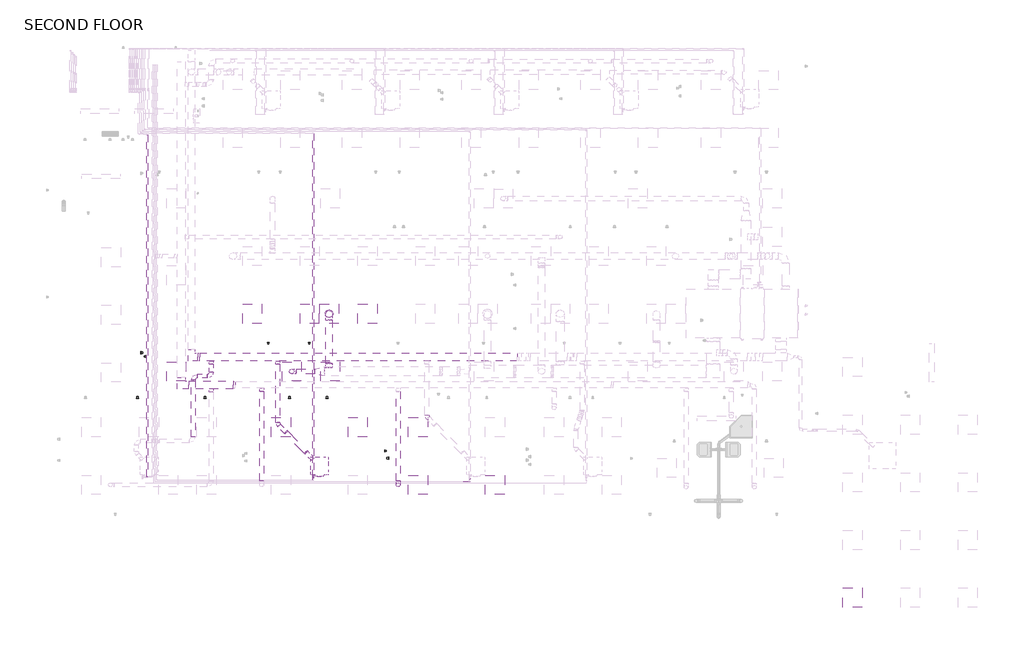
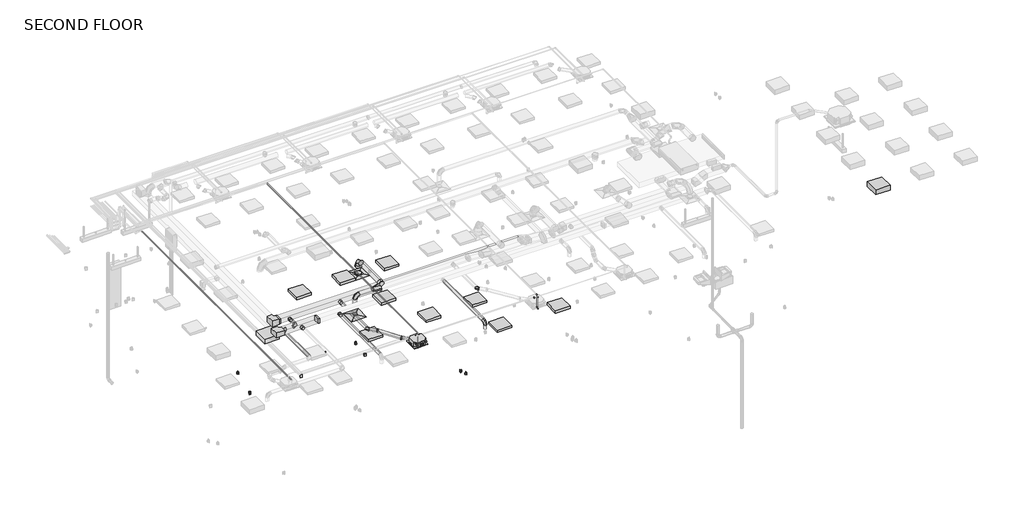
# One storey, part 2 of 12: 20 duct fittings, 15 duct segments, 11 light fixtures, 8 pipe segments, 7 pipe fittings, 6 proxies, 4 switching devices, 2 air terminals, 1 electric appliance.
"""IFC4 building model written with IfcOpenShell, lengths in millimetres."""

from ifc_helpers import new_model, si_unit, point, frame, frame_2d, origin, place, context, project, spatial, polyline, circle_curve, trimmed, segment, composite_curve, outline, extrude, transform, mapped, element, save
from components import air_terminal_a1f6e78c, air_terminal_52af7c74, mechanical_equipment_2d84379e, duplex_receptacle_countertop_10251bba, oval_to_round_transition_length_standard_34fdf921, rectangular_elbow_mitered_transition_standard_34e7224c, rectangular_elbow_mitered_transition_standard_2c7a3de9, rectangular_transition_angle_45_degree_c4f24900, rectangular_transition_angle_45_degree_fab70002, round_elbow_1_d_311c5134, round_elbow_1_d_a253342a, round_elbow_1_d_b37ad80b, round_elbow_1_d_c80420c1, round_elbow_1_d_e3dc691b, round_takeoff_standard_9c416d91, round_takeoff_standard_7fe2b2d5, round_transition_angle_45_degree_2c0294df, telephone_outlet_data_plain_18c24199, troffer_corner_insert_2x2_3_lamp_emergency_29e3a813, troffer_corner_insert_2x2_3lamp_e67c7f8f, elbow_generic_standard_c06ac706, elbow_generic_standard_a088f956

model = new_model("IFC4")

# Units and contexts
model_context = context("Model", 3, world=origin())
ifc_project = project(units=[si_unit("LENGTHUNIT", "METRE", prefix="MILLI")], contexts=[model_context])

# Site, building, storey
site = spatial("IfcSite", under=ifc_project)
building = spatial("IfcBuilding", under=site)
storey = spatial("IfcBuildingStorey", under=building, Name="SECOND FLOOR", Elevation=34544.0)

# Air terminals
placement = place(None, origin())
air_terminal_shape = air_terminal_a1f6e78c(model_context)
element("IfcAirTerminal", 1, ObjectType="Supply Diffuser - Rectangular Face Round Neck - Hosted : 24\"x24\" Face 10\" Neck - Hosted", at=placement, inside=storey, context=model_context, shape_type="MappedRepresentation", body=[
    mapped(air_terminal_shape, transform((-1660.3642107, -751.4804995, 37287.2), x_axis=(-1.0, 0.0, 0.0), y_axis=(0.0, 1.0, 0.0), z_axis=(0.0, 0.0, -1.0))),
])
air_terminal_2_shape = air_terminal_52af7c74(model_context)
element("IfcAirTerminal", 2, ObjectType="Supply Diffuser - Rectangular Face Round Neck - Hosted : 24\"x24\" Face 6\" Neck - Hosted", at=placement, inside=storey, context=model_context, shape_type="MappedRepresentation", body=[
    mapped(air_terminal_2_shape, transform((-2847.0204607, -2580.2804995, 36982.4), x_axis=(-1.0, 0.0, 0.0), y_axis=(0.0, 1.0, 0.0), z_axis=(0.0, 0.0, -1.0))),
])

# Proxies
mechanical_equipment_shape = mechanical_equipment_2d84379e(model_context)
element("IfcBuildingElementProxy", 3, Name="PLFY-P-NCMU-E_4-way_24x24 : PLFY-P12NCMU-E", ObjectType="PLFY-P-NCMU-E_4-way_24x24 : PLFY-P12NCMU-E", at=placement, inside=storey, context=model_context, shape_type="MappedRepresentation", body=[
    mapped(mechanical_equipment_shape, transform((-1964.5292107, -5508.0657082, 37287.2), x_axis=(-1.0, 0.0, 0.0), y_axis=(0.0, 1.0, 0.0), z_axis=(0.0, 0.0, -1.0))),
])
duplex_receptacle_countertop_shape = duplex_receptacle_countertop_10251bba(model_context)
element("IfcBuildingElementProxy", 4, Name="Duplex Receptacle : Countertop", ObjectType="Duplex Receptacle : Countertop", at=placement, inside=storey, context=model_context, shape_type="MappedRepresentation", body=[
    mapped(duplex_receptacle_countertop_shape, transform((-7737.5045379, -3437.5304995, 35763.2), x_axis=(1.0, 0.0, 0.0), y_axis=(0.0, 0.0, 1.0), z_axis=(0.0, -1.0, 0.0))),
])
element("IfcBuildingElementProxy", 5, Name="Duplex Receptacle : Standard", ObjectType="Duplex Receptacle : Standard", at=placement, inside=storey, context=model_context, shape_type="MappedRepresentation", body=[
    mapped(duplex_receptacle_countertop_shape, transform((-3586.9084231, -1665.8804995, 35001.2), x_axis=(-1.0, 0.0, 0.0), y_axis=(0.0, 0.0, 1.0), z_axis=(0.0, 1.0, 0.0))),
])
element("IfcBuildingElementProxy", 6, Name="Duplex Receptacle : Standard", ObjectType="Duplex Receptacle : Standard", at=placement, inside=storey, context=model_context, shape_type="MappedRepresentation", body=[
    mapped(duplex_receptacle_countertop_shape, transform((-1729.6516875, -3437.5304995, 35001.2), x_axis=(1.0, 0.0, 0.0), y_axis=(0.0, 0.0, 1.0), z_axis=(0.0, -1.0, 0.0))),
])
element("IfcBuildingElementProxy", 7, Name="Duplex Receptacle : Standard", ObjectType="Duplex Receptacle : Standard", at=placement, inside=storey, context=model_context, shape_type="MappedRepresentation", body=[
    mapped(duplex_receptacle_countertop_shape, transform((101.6170393, -5102.6743878, 35001.2), x_axis=(0.0, -1.0, 0.0), y_axis=(0.0, 0.0, 1.0), z_axis=(-1.0, 0.0, 0.0))),
])
element("IfcBuildingElementProxy", 8, Name="Duplex Receptacle : Standard", ObjectType="Duplex Receptacle : Standard", at=placement, inside=storey, context=model_context, shape_type="MappedRepresentation", body=[
    mapped(duplex_receptacle_countertop_shape, transform((225.4420393, -5337.3044193, 35001.2), x_axis=(0.0, 1.0, 0.0), y_axis=(0.0, 0.0, 1.0), z_axis=(1.0, 0.0, 0.0))),
])

# Duct fittings
oval_to_round_transition_length_standard_shape = oval_to_round_transition_length_standard_34fdf921(model_context)
element("IfcDuctFitting", 9, ObjectType="Oval to Round Transition - Length : Standard", at=placement, inside=storey, context=model_context, shape_type="MappedRepresentation", body=[
    mapped(oval_to_round_transition_length_standard_shape, transform((-1817.5229315, -2580.2804995, 37872.9293609), x_axis=(-1.0, 0.0, 0.0), y_axis=(0.0, -1.0, 0.0), z_axis=(0.0, 0.0, 1.0))),
])
rectangular_elbow_mitered_transition_standard_shape = rectangular_elbow_mitered_transition_standard_34e7224c(model_context)
element("IfcDuctFitting", 10, ObjectType="Rectangular Elbow - Mitered - Transition : Standard", at=placement, inside=storey, context=model_context, shape_type="MappedRepresentation", body=[
    mapped(rectangular_elbow_mitered_transition_standard_shape, transform((-6029.8204015, -2123.0804995, 37541.2), x_axis=(0.0, -1.0, 0.0), y_axis=(1.0, 0.0, 0.0), z_axis=(0.0, 0.0, 1.0))),
])
rectangular_elbow_mitered_transition_standard_2_shape = rectangular_elbow_mitered_transition_standard_2c7a3de9(model_context)
element("IfcDuctFitting", 11, ObjectType="Rectangular Elbow - Mitered - Transition : Standard", at=placement, inside=storey, context=model_context, shape_type="MappedRepresentation", body=[
    mapped(rectangular_elbow_mitered_transition_standard_2_shape, transform((-6347.3126806, -3010.2706668, 37693.6), x_axis=(0.0, -1.0, 0.0), y_axis=(1.0, 0.0, 0.0), z_axis=(0.0, 0.0, 1.0))),
])
rectangular_transition_angle_45_degree_shape = rectangular_transition_angle_45_degree_c4f24900(model_context)
element("IfcDuctFitting", 12, ObjectType="Rectangular Transition - Angle : 45 Degree", at=placement, inside=storey, context=model_context, shape_type="MappedRepresentation", body=[
    mapped(rectangular_transition_angle_45_degree_shape, transform((-5826.6204015, -2123.0804995, 37541.2), x_axis=(1.0, 0.0, 0.0), y_axis=(0.0, 1.0, 0.0), z_axis=(0.0, 0.0, 1.0))),
])
rectangular_transition_angle_45_degree_2_shape = rectangular_transition_angle_45_degree_fab70002(model_context)
element("IfcDuctFitting", 13, ObjectType="Rectangular Transition - Angle : 45 Degree", at=placement, inside=storey, context=model_context, shape_type="MappedRepresentation", body=[
    mapped(rectangular_transition_angle_45_degree_2_shape, transform((-4638.1666561, -3010.2706668, 37693.6), x_axis=(-1.0, 0.0, 0.0), y_axis=(0.0, -1.0, 0.0), z_axis=(0.0, 0.0, 1.0))),
])
round_elbow_1_d_shape = round_elbow_1_d_311c5134(model_context)
element("IfcDuctFitting", 14, ObjectType="Round Elbow : 1 D", at=placement, inside=storey, context=model_context, shape_type="MappedRepresentation", body=[
    mapped(round_elbow_1_d_shape, transform((-3027.5488286, -4513.6671316, 37541.2), x_axis=(0.7071067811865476, -0.7071067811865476, 0.0), y_axis=(0.0, 0.0, -1.0000000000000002), z_axis=(0.7071067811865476, 0.7071067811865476, 0.0))),
])
element("IfcDuctFitting", 15, ObjectType="Round Elbow : 1 D", at=placement, inside=storey, context=model_context, shape_type="MappedRepresentation", body=[
    mapped(round_elbow_1_d_shape, transform((-2391.6566692, -5149.559291, 37381.2593852), x_axis=(0.6961818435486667, -0.6961818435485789, -0.17510477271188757), y_axis=(0.12381777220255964, -0.12381777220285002, 0.9845498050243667), z_axis=(-0.7071067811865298, -0.7071067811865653, 0.0))),
])
round_elbow_1_d_2_shape = round_elbow_1_d_a253342a(model_context)
element("IfcDuctFitting", 16, ObjectType="Round Elbow : 1 D", at=placement, inside=storey, context=model_context, shape_type="MappedRepresentation", body=[
    mapped(round_elbow_1_d_2_shape, transform((-1660.3642107, -751.4804995, 37899.3625579), x_axis=(0.0, 0.0, 1.0), y_axis=(0.0, -1.0, 0.0), z_axis=(1.0, 0.0, 0.0))),
])
round_elbow_1_d_3_shape = round_elbow_1_d_b37ad80b(model_context)
element("IfcDuctFitting", 17, ObjectType="Round Elbow : 1 D", at=placement, inside=storey, context=model_context, shape_type="MappedRepresentation", body=[
    mapped(round_elbow_1_d_3_shape, transform((-2847.0204607, -2580.2804995, 37872.9293609), x_axis=(0.0, 0.0, 1.0), y_axis=(1.0, 0.0, 0.0), z_axis=(0.0, 1.0, 0.0))),
])
round_elbow_1_d_4_shape = round_elbow_1_d_c80420c1(model_context)
element("IfcDuctFitting", 18, ObjectType="Round Elbow : 1 D", at=placement, inside=storey, context=model_context, shape_type="MappedRepresentation", body=[
    mapped(round_elbow_1_d_4_shape, transform((530.2420393, -6180.7304995, 37693.6), x_axis=(0.0, 0.0, 1.0), y_axis=(0.0, 1.0, 0.0), z_axis=(-1.0, 0.0, 0.0))),
])
element("IfcDuctFitting", 19, ObjectType="Round Elbow : 1 D", at=placement, inside=storey, context=model_context, shape_type="MappedRepresentation", body=[
    mapped(round_elbow_1_d_4_shape, transform((-5970.2349734, -2733.8247368, 37515.8), x_axis=(-1.0, 0.0, 0.0), y_axis=(0.0, -1.0, 0.0), z_axis=(0.0, 0.0, 1.0))),
])
element("IfcDuctFitting", 20, ObjectType="Round Elbow : 1 D", at=placement, inside=storey, context=model_context, shape_type="MappedRepresentation", body=[
    mapped(round_elbow_1_d_4_shape, transform((-5393.5292107, -2733.8247368, 37515.8), x_axis=(1.0, 0.0, 0.0), y_axis=(0.0, 1.0, 0.0), z_axis=(0.0, 0.0, 1.0))),
])
round_elbow_1_d_5_shape = round_elbow_1_d_e3dc691b(model_context)
element("IfcDuctFitting", 21, ObjectType="Round Elbow : 1 D", at=placement, inside=storey, context=model_context, shape_type="MappedRepresentation", body=[
    mapped(round_elbow_1_d_5_shape, transform((-3284.9773478, -4256.2386124, 37541.2), x_axis=(0.0, -1.0, 0.0), y_axis=(1.0, 0.0, 0.0), z_axis=(0.0, 0.0, 1.0))),
])
element("IfcDuctFitting", 22, ObjectType="Round Elbow : 1 D", at=placement, inside=storey, context=model_context, shape_type="MappedRepresentation", body=[
    mapped(round_elbow_1_d_5_shape, transform((1442.1559931, -4022.7519533, 37541.2), x_axis=(0.0, -1.0, 0.0), y_axis=(1.0, 0.0, 0.0), z_axis=(0.0, 0.0, 1.0))),
])
round_takeoff_standard_shape = round_takeoff_standard_9c416d91(model_context)
element("IfcDuctFitting", 23, ObjectType="Round Takeoff : Standard", at=placement, inside=storey, context=model_context, shape_type="MappedRepresentation", body=[
    mapped(round_takeoff_standard_shape, transform((-1660.3642107, -2431.3792961, 37899.3625579), x_axis=(0.0, 1.0, 0.0), y_axis=(1.0, 0.0, 0.0), z_axis=(0.0, 0.0, -1.0))),
])
round_takeoff_standard_2_shape = round_takeoff_standard_7fe2b2d5(model_context)
element("IfcDuctFitting", 24, ObjectType="Round Takeoff : Standard", at=placement, inside=storey, context=model_context, shape_type="MappedRepresentation", body=[
    mapped(round_takeoff_standard_2_shape, transform((-5393.5292107, -3137.2706668, 37693.6), x_axis=(0.0, -1.0, 0.0), y_axis=(-1.0, 0.0, 0.0), z_axis=(0.0, 0.0, -1.0))),
])
element("IfcDuctFitting", 25, ObjectType="Round Takeoff : Standard", at=placement, inside=storey, context=model_context, shape_type="MappedRepresentation", body=[
    mapped(round_takeoff_standard_2_shape, transform((-3798.8854607, -3111.8706668, 37693.6), x_axis=(0.0, -1.0, 0.0), y_axis=(-1.0, 0.0, 0.0), z_axis=(0.0, 0.0, -1.0))),
])
element("IfcDuctFitting", 26, ObjectType="Round Takeoff : Standard", at=placement, inside=storey, context=model_context, shape_type="MappedRepresentation", body=[
    mapped(round_takeoff_standard_2_shape, transform((-3284.9773478, -2250.0804995, 37541.2), x_axis=(0.0, -1.0, 0.0), y_axis=(-1.0, 0.0, 0.0), z_axis=(0.0, 0.0, -1.0))),
])
element("IfcDuctFitting", 27, ObjectType="Round Takeoff : Standard", at=placement, inside=storey, context=model_context, shape_type="MappedRepresentation", body=[
    mapped(round_takeoff_standard_2_shape, transform((-5393.5292107, -2250.0804995, 37515.8), x_axis=(0.0, -1.0, 0.0), y_axis=(-1.0, 0.0, 0.0), z_axis=(0.0, 0.0, -1.0))),
])
round_transition_angle_45_degree_shape = round_transition_angle_45_degree_2c0294df(model_context)
element("IfcDuctFitting", 28, ObjectType="Round Transition - Angle : 45 Degree", at=placement, inside=storey, context=model_context, shape_type="MappedRepresentation", body=[
    mapped(round_transition_angle_45_degree_shape, transform((-1660.3642107, -751.4804995, 37634.8415334), x_axis=(0.0, 0.0, 1.0), y_axis=(1.0, 0.0, 0.0), z_axis=(0.0, 1.0, 0.0))),
])

# Duct segments
element("IfcDuctSegment", 29, ObjectType="Mitered Elbows / Taps", at=placement, inside=storey, context=model_context, shape_type="SweptSolid", body=[
    extrude(outline(polyline([(-6118.7126806, -3137.2706668), (-6118.7126806, -2883.2706668), (-4699.4876806, -2883.2706668), (-4699.4876806, -3137.2706668), (-6118.7126806, -3137.2706668)])), frame((0.0, 0.0, 37592.0), z_axis=(0.0, 0.0, 1.0), x_axis=(1.0, 0.0, 0.0)), (0.0, 0.0, 1.0), 203.2),
])
element("IfcDuctSegment", 30, ObjectType="Radius Elbows / Taps", at=placement, inside=storey, context=model_context, shape_type="SweptSolid", body=[
    extrude(outline(polyline([(-5765.299377, -2250.0804995), (-5765.299377, -1996.0804995), (4310.5486467, -1996.0804995), (4310.5486467, -2250.0804995), (-5765.299377, -2250.0804995)])), frame((0.0, 0.0, 37439.6), z_axis=(0.0, 0.0, 1.0), x_axis=(1.0, 0.0, 0.0)), (0.0, 0.0, 1.0), 203.2),
])
element("IfcDuctSegment", 31, ObjectType="Taps / Short Radius", at=placement, inside=storey, context=model_context, shape_type="SweptSolid", body=[
    extrude(outline(composite_curve([segment(trimmed(circle_curve(frame_2d((37899.3625579, -1660.3642107)), 101.6), [point((37899.3625579, -1761.9642107))], [point((37797.7625579, -1660.3642107))], False, "CARTESIAN"), True, "CONTINUOUS"), segment(trimmed(circle_curve(frame_2d((37899.3625579, -1660.3642107)), 101.6), [point((37797.7625579, -1660.3642107))], [point((37899.3625579, -1558.7642107))], False, "CARTESIAN"), True, "CONTINUOUS"), segment(trimmed(circle_curve(frame_2d((37899.3625579, -1660.3642107)), 101.6), [point((37899.3625579, -1558.7642107))], [point((38000.9625579, -1660.3642107))], False, "CARTESIAN"), True, "CONTINUOUS"), segment(trimmed(circle_curve(frame_2d((37899.3625579, -1660.3642107)), 101.6), [point((38000.9625579, -1660.3642107))], [point((37899.3625579, -1761.9642107))], False, "CARTESIAN"), True, "CONTINUOUS")], self_intersect=False)), frame((0.0, -2329.7792961, 0.0), z_axis=(0.0, 1.0, 0.0), x_axis=(0.0, 0.0, 1.0)), (0.0, 0.0, 1.0), 1375.0987967),
])
element("IfcDuctSegment", 32, ObjectType="Taps / Short Radius", at=placement, inside=storey, context=model_context, shape_type="SweptSolid", body=[
    extrude(outline(composite_curve([segment(trimmed(circle_curve(frame_2d((-2580.2804995, 37872.9293609)), 76.2), [point((-2656.4804995, 37872.9293609))], [point((-2580.2804995, 37949.1293609))], False, "CARTESIAN"), True, "CONTINUOUS"), segment(trimmed(circle_curve(frame_2d((-2580.2804995, 37872.9293609)), 76.2), [point((-2580.2804995, 37949.1293609))], [point((-2504.0804995, 37872.9293609))], False, "CARTESIAN"), True, "CONTINUOUS"), segment(trimmed(circle_curve(frame_2d((-2580.2804995, 37872.9293609)), 76.2), [point((-2504.0804995, 37872.9293609))], [point((-2580.2804995, 37796.7293609))], False, "CARTESIAN"), True, "CONTINUOUS"), segment(trimmed(circle_curve(frame_2d((-2580.2804995, 37872.9293609)), 76.2), [point((-2580.2804995, 37796.7293609))], [point((-2656.4804995, 37872.9293609))], False, "CARTESIAN"), True, "CONTINUOUS")], self_intersect=False)), frame((-2694.6204607, 0.0, 0.0), z_axis=(1.0, 0.0, 0.0), x_axis=(0.0, 1.0, 0.0)), (0.0, 0.0, 1.0), 572.2975292),
])
element("IfcDuctSegment", 33, ObjectType="Taps / Short Radius", at=placement, inside=storey, context=model_context, shape_type="SweptSolid", body=[
    extrude(outline(composite_curve([segment(trimmed(circle_curve(frame_2d((-2847.0204607, -2580.2804995)), 76.2), [point((-2847.0204607, -2656.4804995))], [point((-2923.2204607, -2580.2804995))], False, "CARTESIAN"), True, "CONTINUOUS"), segment(trimmed(circle_curve(frame_2d((-2847.0204607, -2580.2804995)), 76.2), [point((-2923.2204607, -2580.2804995))], [point((-2847.0204607, -2504.0804995))], False, "CARTESIAN"), True, "CONTINUOUS"), segment(trimmed(circle_curve(frame_2d((-2847.0204607, -2580.2804995)), 76.2), [point((-2847.0204607, -2504.0804995))], [point((-2770.8204607, -2580.2804995))], False, "CARTESIAN"), True, "CONTINUOUS"), segment(trimmed(circle_curve(frame_2d((-2847.0204607, -2580.2804995)), 76.2), [point((-2770.8204607, -2580.2804995))], [point((-2847.0204607, -2656.4804995))], False, "CARTESIAN"), True, "CONTINUOUS")], self_intersect=False)), frame((0.0, 0.0, 37036.375), z_axis=(0.0, 0.0, 1.0), x_axis=(1.0, 0.0, 0.0)), (0.0, 0.0, 1.0), 684.1543609),
])
element("IfcDuctSegment", 34, ObjectType="Taps / Short Radius", at=placement, inside=storey, context=model_context, shape_type="SweptSolid", body=[
    extrude(outline(composite_curve([segment(trimmed(circle_curve(frame_2d((37693.6, 530.2420393)), 63.5), [point((37693.6, 466.7420393))], [point((37630.1, 530.2420393))], False, "CARTESIAN"), True, "CONTINUOUS"), segment(trimmed(circle_curve(frame_2d((37693.6, 530.2420393)), 63.5), [point((37630.1, 530.2420393))], [point((37693.6, 593.7420393))], False, "CARTESIAN"), True, "CONTINUOUS"), segment(trimmed(circle_curve(frame_2d((37693.6, 530.2420393)), 63.5), [point((37693.6, 593.7420393))], [point((37757.1, 530.2420393))], False, "CARTESIAN"), True, "CONTINUOUS"), segment(trimmed(circle_curve(frame_2d((37693.6, 530.2420393)), 63.5), [point((37757.1, 530.2420393))], [point((37693.6, 466.7420393))], False, "CARTESIAN"), True, "CONTINUOUS")], self_intersect=False)), frame((0.0, -6053.7304995, 0.0), z_axis=(0.0, 1.0, 0.0), x_axis=(0.0, 0.0, 1.0)), (0.0, 0.0, 1.0), 2840.2598327),
])
element("IfcDuctSegment", 35, ObjectType="Taps / Short Radius", at=placement, inside=storey, context=model_context, shape_type="SweptSolid", body=[
    extrude(outline(composite_curve([segment(trimmed(circle_curve(frame_2d((530.2420393, -6180.7304995)), 63.5), [point((593.7420393, -6180.7304995))], [point((530.2420393, -6244.2304995))], False, "CARTESIAN"), True, "CONTINUOUS"), segment(trimmed(circle_curve(frame_2d((530.2420393, -6180.7304995)), 63.5), [point((530.2420393, -6244.2304995))], [point((466.7420393, -6180.7304995))], False, "CARTESIAN"), True, "CONTINUOUS"), segment(trimmed(circle_curve(frame_2d((530.2420393, -6180.7304995)), 63.5), [point((466.7420393, -6180.7304995))], [point((530.2420393, -6117.2304995))], False, "CARTESIAN"), True, "CONTINUOUS"), segment(trimmed(circle_curve(frame_2d((530.2420393, -6180.7304995)), 63.5), [point((530.2420393, -6117.2304995))], [point((593.7420393, -6180.7304995))], False, "CARTESIAN"), True, "CONTINUOUS")], self_intersect=False)), frame((0.0, 0.0, 37388.8), z_axis=(0.0, 0.0, 1.0), x_axis=(1.0, 0.0, 0.0)), (0.0, 0.0, 1.0), 177.8),
])
element("IfcDuctSegment", 36, ObjectType="Taps / Short Radius", at=placement, inside=storey, context=model_context, shape_type="SweptSolid", body=[
    extrude(outline(composite_curve([segment(trimmed(circle_curve(frame_2d((37693.6, -3798.8854607)), 63.5), [point((37693.6, -3862.3854607))], [point((37630.1, -3798.8854607))], False, "CARTESIAN"), True, "CONTINUOUS"), segment(trimmed(circle_curve(frame_2d((37693.6, -3798.8854607)), 63.5), [point((37630.1, -3798.8854607))], [point((37693.6, -3735.3854607))], False, "CARTESIAN"), True, "CONTINUOUS"), segment(trimmed(circle_curve(frame_2d((37693.6, -3798.8854607)), 63.5), [point((37693.6, -3735.3854607))], [point((37757.1, -3798.8854607))], False, "CARTESIAN"), True, "CONTINUOUS"), segment(trimmed(circle_curve(frame_2d((37693.6, -3798.8854607)), 63.5), [point((37757.1, -3798.8854607))], [point((37693.6, -3862.3854607))], False, "CARTESIAN"), True, "CONTINUOUS")], self_intersect=False)), frame((0.0, -6053.7304995, 0.0), z_axis=(0.0, 1.0, 0.0), x_axis=(0.0, 0.0, 1.0)), (0.0, 0.0, 1.0), 2840.2598327),
])
element("IfcDuctSegment", 37, ObjectType="Taps / Short Radius", at=placement, inside=storey, context=model_context, shape_type="SweptSolid", body=[
    extrude(outline(composite_curve([segment(trimmed(circle_curve(frame_2d((37541.2, -3284.9773478)), 63.5), [point((37541.2, -3348.4773478))], [point((37477.7, -3284.9773478))], False, "CARTESIAN"), True, "CONTINUOUS"), segment(trimmed(circle_curve(frame_2d((37541.2, -3284.9773478)), 63.5), [point((37477.7, -3284.9773478))], [point((37541.2, -3221.4773478))], False, "CARTESIAN"), True, "CONTINUOUS"), segment(trimmed(circle_curve(frame_2d((37541.2, -3284.9773478)), 63.5), [point((37541.2, -3221.4773478))], [point((37604.7, -3284.9773478))], False, "CARTESIAN"), True, "CONTINUOUS"), segment(trimmed(circle_curve(frame_2d((37541.2, -3284.9773478)), 63.5), [point((37604.7, -3284.9773478))], [point((37541.2, -3348.4773478))], False, "CARTESIAN"), True, "CONTINUOUS")], self_intersect=False)), frame((0.0, -4203.63349, 0.0), z_axis=(0.0, 1.0, 0.0), x_axis=(0.0, 0.0, 1.0)), (0.0, 0.0, 1.0), 1851.9529905),
])
element("IfcDuctSegment", 38, ObjectType="Taps / Short Radius", at=placement, inside=storey, context=model_context, shape_type="SweptSolid", body=[
    extrude(outline(composite_curve([segment(trimmed(circle_curve(frame_2d((0.0, -63.5)), 63.5), [point((-63.5, -63.5))], [point((0.0, 0.0))], False, "CARTESIAN"), True, "CONTINUOUS"), segment(trimmed(circle_curve(frame_2d((0.0, -63.5)), 63.5), [point((0.0, 0.0))], [point((63.5, -63.5))], False, "CARTESIAN"), True, "CONTINUOUS"), segment(trimmed(circle_curve(frame_2d((0.0, -63.5)), 63.5), [point((63.5, -63.5))], [point((0.0, -127.0))], False, "CARTESIAN"), True, "CONTINUOUS"), segment(trimmed(circle_curve(frame_2d((0.0, -63.5)), 63.5), [point((0.0, -127.0))], [point((-63.5, -63.5))], False, "CARTESIAN"), True, "CONTINUOUS")], self_intersect=False)), frame((-3035.472468, -4505.7434922, 37477.7), z_axis=(-0.7071067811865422, 0.7071067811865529, 0.0), x_axis=(0.7071067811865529, 0.7071067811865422, 0.0)), (0.0, 0.0, 1.0), 300.2480624),
])
element("IfcDuctSegment", 39, ObjectType="Taps / Short Radius", at=placement, inside=storey, context=model_context, shape_type="SweptSolid", body=[
    extrude(outline(composite_curve([segment(trimmed(circle_curve(frame_2d((0.0, -63.5)), 63.5), [point((-62.5483216, -74.4525096))], [point((-10.9525097, -0.9516784))], False, "CARTESIAN"), True, "CONTINUOUS"), segment(trimmed(circle_curve(frame_2d((0.0, -63.5)), 63.5), [point((-10.9525097, -0.9516784))], [point((62.5483215, -52.5474904))], False, "CARTESIAN"), True, "CONTINUOUS"), segment(trimmed(circle_curve(frame_2d((0.0, -63.5)), 63.5), [point((62.5483215, -52.5474904))], [point((10.9525096, -126.0483215))], False, "CARTESIAN"), True, "CONTINUOUS"), segment(trimmed(circle_curve(frame_2d((0.0, -63.5)), 63.5), [point((10.9525096, -126.0483215))], [point((-62.5483216, -74.4525096))], False, "CARTESIAN"), True, "CONTINUOUS")], self_intersect=False)), frame((-2399.4578868, -5126.2688857, 37321.6396222), z_axis=(-0.6961818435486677, 0.6961818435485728, 0.1751047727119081), x_axis=(0.71786547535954, 0.675153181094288, 0.16981560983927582)), (0.0, 0.0, 1.0), 890.98808),
])
element("IfcDuctSegment", 40, ObjectType="Taps / Short Radius", at=placement, inside=storey, context=model_context, shape_type="SweptSolid", body=[
    extrude(outline(composite_curve([segment(trimmed(circle_curve(frame_2d((0.0, -63.5)), 63.5), [point((-63.5, -63.5))], [point((0.0, 0.0))], False, "CARTESIAN"), True, "CONTINUOUS"), segment(trimmed(circle_curve(frame_2d((0.0, -63.5)), 63.5), [point((0.0, 0.0))], [point((63.5, -63.5))], False, "CARTESIAN"), True, "CONTINUOUS"), segment(trimmed(circle_curve(frame_2d((0.0, -63.5)), 63.5), [point((63.5, -63.5))], [point((0.0, -127.0))], False, "CARTESIAN"), True, "CONTINUOUS"), segment(trimmed(circle_curve(frame_2d((0.0, -63.5)), 63.5), [point((0.0, -127.0))], [point((-63.5, -63.5))], False, "CARTESIAN"), True, "CONTINUOUS")], self_intersect=False)), frame((-2171.4255888, -5369.7903714, 37317.7593852), z_axis=(-0.70710678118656, 0.7071067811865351, 0.0), x_axis=(0.7071067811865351, 0.70710678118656, 0.0)), (0.0, 0.0, 1.0), 300.2480624),
])
element("IfcDuctSegment", 41, ObjectType="Taps / Short Radius", at=placement, inside=storey, context=model_context, shape_type="SweptSolid", body=[
    extrude(outline(composite_curve([segment(trimmed(circle_curve(frame_2d((37515.8, -5970.2349734)), 63.5), [point((37515.8, -5906.7349734))], [point((37579.3, -5970.2349734))], False, "CARTESIAN"), True, "CONTINUOUS"), segment(trimmed(circle_curve(frame_2d((37515.8, -5970.2349734)), 63.5), [point((37579.3, -5970.2349734))], [point((37515.8, -6033.7349734))], False, "CARTESIAN"), True, "CONTINUOUS"), segment(trimmed(circle_curve(frame_2d((37515.8, -5970.2349734)), 63.5), [point((37515.8, -6033.7349734))], [point((37452.3, -5970.2349734))], False, "CARTESIAN"), True, "CONTINUOUS"), segment(trimmed(circle_curve(frame_2d((37515.8, -5970.2349734)), 63.5), [point((37452.3, -5970.2349734))], [point((37515.8, -5906.7349734))], False, "CARTESIAN"), True, "CONTINUOUS")], self_intersect=False)), frame((0.0, -4664.2247368, 0.0), z_axis=(0.0, 1.0, 0.0), x_axis=(0.0, 0.0, 1.0)), (0.0, 0.0, 1.0), 1803.4),
])
element("IfcDuctSegment", 42, ObjectType="Taps / Short Radius", at=placement, inside=storey, context=model_context, shape_type="SweptSolid", body=[
    extrude(outline(composite_curve([segment(trimmed(circle_curve(frame_2d((-2733.8247368, 37515.8)), 63.5), [point((-2797.3247368, 37515.8))], [point((-2733.8247368, 37579.3))], False, "CARTESIAN"), True, "CONTINUOUS"), segment(trimmed(circle_curve(frame_2d((-2733.8247368, 37515.8)), 63.5), [point((-2733.8247368, 37579.3))], [point((-2670.3247368, 37515.8))], False, "CARTESIAN"), True, "CONTINUOUS"), segment(trimmed(circle_curve(frame_2d((-2733.8247368, 37515.8)), 63.5), [point((-2670.3247368, 37515.8))], [point((-2733.8247368, 37452.3))], False, "CARTESIAN"), True, "CONTINUOUS"), segment(trimmed(circle_curve(frame_2d((-2733.8247368, 37515.8)), 63.5), [point((-2733.8247368, 37452.3))], [point((-2797.3247368, 37515.8))], False, "CARTESIAN"), True, "CONTINUOUS")], self_intersect=False)), frame((-5843.2349734, 0.0, 0.0), z_axis=(1.0, 0.0, 0.0), x_axis=(0.0, 1.0, 0.0)), (0.0, 0.0, 1.0), 322.7057627),
])
element("IfcDuctSegment", 43, ObjectType="Taps / Short Radius", at=placement, inside=storey, context=model_context, shape_type="SweptSolid", body=[
    extrude(outline(composite_curve([segment(trimmed(circle_curve(frame_2d((37515.8, -5393.5292107)), 63.5), [point((37515.8, -5330.0292107))], [point((37579.3, -5393.5292107))], False, "CARTESIAN"), True, "CONTINUOUS"), segment(trimmed(circle_curve(frame_2d((37515.8, -5393.5292107)), 63.5), [point((37579.3, -5393.5292107))], [point((37515.8, -5457.0292107))], False, "CARTESIAN"), True, "CONTINUOUS"), segment(trimmed(circle_curve(frame_2d((37515.8, -5393.5292107)), 63.5), [point((37515.8, -5457.0292107))], [point((37452.3, -5393.5292107))], False, "CARTESIAN"), True, "CONTINUOUS"), segment(trimmed(circle_curve(frame_2d((37515.8, -5393.5292107)), 63.5), [point((37452.3, -5393.5292107))], [point((37515.8, -5330.0292107))], False, "CARTESIAN"), True, "CONTINUOUS")], self_intersect=False)), frame((0.0, -2606.8247368, 0.0), z_axis=(0.0, 1.0, 0.0), x_axis=(0.0, 0.0, 1.0)), (0.0, 0.0, 1.0), 255.1442373),
])

# Electric appliance
telephone_outlet_data_plain_shape = telephone_outlet_data_plain_18c24199(model_context)
element("IfcElectricAppliance", 44, ObjectType="Telephone Outlet - Data : Plain", at=placement, inside=storey, context=model_context, shape_type="MappedRepresentation", body=[
    mapped(telephone_outlet_data_plain_shape, transform((-3172.6761683, -1665.8804995, 34143.95), x_axis=(-1.0, 0.0, 0.0), y_axis=(0.0, 0.0, 1.0), z_axis=(0.0, 1.0, 0.0))),
])

# Light fixtures
troffer_corner_insert_2x2_3_lamp_emergency_shape = troffer_corner_insert_2x2_3_lamp_emergency_29e3a813(model_context)
element("IfcLightFixture", 45, ObjectType="Troffer Corner Insert : 2x2 3 Lamp Emergency", at=placement, inside=storey, context=model_context, shape_type="MappedRepresentation", body=[
    mapped(troffer_corner_insert_2x2_3_lamp_emergency_shape, transform((-6504.6204607, -2580.2804995, 34848.8), x_axis=(1.0, 0.0, 0.0), y_axis=(0.0, 1.0, 0.0), z_axis=(0.0, 0.0, 1.0))),
])
element("IfcLightFixture", 46, ObjectType="Troffer Corner Insert : 2x2 3 Lamp Emergency", at=placement, inside=storey, context=model_context, shape_type="MappedRepresentation", body=[
    mapped(troffer_corner_insert_2x2_3_lamp_emergency_shape, transform((14938.3445338, -9762.1304995, 38303.2), x_axis=(1.0, 0.0, 0.0), y_axis=(0.0, 1.0, 0.0), z_axis=(0.0, 0.0, 1.0))),
])
troffer_corner_insert_2x2_3lamp_shape = troffer_corner_insert_2x2_3lamp_e67c7f8f(model_context)
element("IfcLightFixture", 47, ObjectType="Troffer Corner Insert : 2x2 3Lamp", at=placement, inside=storey, context=model_context, shape_type="MappedRepresentation", body=[
    mapped(troffer_corner_insert_2x2_3lamp_shape, transform((1161.7345393, -4351.9304995, 34848.8), x_axis=(1.0, 0.0, 0.0), y_axis=(0.0, 1.0, 0.0), z_axis=(0.0, 0.0, 1.0))),
])
element("IfcLightFixture", 48, ObjectType="Troffer Corner Insert : 2x2 3Lamp", at=placement, inside=storey, context=model_context, shape_type="MappedRepresentation", body=[
    mapped(troffer_corner_insert_2x2_3lamp_shape, transform((1161.7345393, -6180.7304995, 34848.8), x_axis=(1.0, 0.0, 0.0), y_axis=(0.0, 1.0, 0.0), z_axis=(0.0, 0.0, 1.0))),
])
element("IfcLightFixture", 49, ObjectType="Troffer Corner Insert : 2x2 3Lamp", at=placement, inside=storey, context=model_context, shape_type="MappedRepresentation", body=[
    mapped(troffer_corner_insert_2x2_3lamp_shape, transform((3600.1345393, -6180.7304995, 34848.8), x_axis=(1.0, 0.0, 0.0), y_axis=(0.0, 1.0, 0.0), z_axis=(0.0, 0.0, 1.0))),
])
element("IfcLightFixture", 50, ObjectType="Troffer Corner Insert : 2x2 3Lamp", at=placement, inside=storey, context=model_context, shape_type="MappedRepresentation", body=[
    mapped(troffer_corner_insert_2x2_3lamp_shape, transform((-3189.2854607, -4351.9304995, 34848.8), x_axis=(1.0, 0.0, 0.0), y_axis=(0.0, 1.0, 0.0), z_axis=(0.0, 0.0, 1.0))),
])
element("IfcLightFixture", 51, ObjectType="Troffer Corner Insert : 2x2 3Lamp", at=placement, inside=storey, context=model_context, shape_type="MappedRepresentation", body=[
    mapped(troffer_corner_insert_2x2_3lamp_shape, transform((-750.8854607, -4351.9304995, 34848.8), x_axis=(1.0, 0.0, 0.0), y_axis=(0.0, 1.0, 0.0), z_axis=(0.0, 0.0, 1.0))),
])
element("IfcLightFixture", 52, ObjectType="Troffer Corner Insert : 2x2 3Lamp", at=placement, inside=storey, context=model_context, shape_type="MappedRepresentation", body=[
    mapped(troffer_corner_insert_2x2_3lamp_shape, transform((-1627.8204607, -2580.2804995, 34848.8), x_axis=(1.0, 0.0, 0.0), y_axis=(0.0, 1.0, 0.0), z_axis=(0.0, 0.0, 1.0))),
])
element("IfcLightFixture", 53, ObjectType="Troffer Corner Insert : 2x2 3Lamp", at=placement, inside=storey, context=model_context, shape_type="MappedRepresentation", body=[
    mapped(troffer_corner_insert_2x2_3lamp_shape, transform((-4098.7642107, -751.4804995, 34848.8), x_axis=(1.0, 0.0, 0.0), y_axis=(0.0, 1.0, 0.0), z_axis=(0.0, 0.0, 1.0))),
])
element("IfcLightFixture", 54, ObjectType="Troffer Corner Insert : 2x2 3Lamp", at=placement, inside=storey, context=model_context, shape_type="MappedRepresentation", body=[
    mapped(troffer_corner_insert_2x2_3lamp_shape, transform((-2269.9642107, -751.4804995, 34848.8), x_axis=(1.0, 0.0, 0.0), y_axis=(0.0, 1.0, 0.0), z_axis=(0.0, 0.0, 1.0))),
])
element("IfcLightFixture", 55, ObjectType="Troffer Corner Insert : 2x2 3Lamp", at=placement, inside=storey, context=model_context, shape_type="MappedRepresentation", body=[
    mapped(troffer_corner_insert_2x2_3lamp_shape, transform((-441.1642107, -751.4804995, 34848.8), x_axis=(1.0, 0.0, 0.0), y_axis=(0.0, 1.0, 0.0), z_axis=(0.0, 0.0, 1.0))),
])

# Pipe fittings
elbow_generic_standard_shape = elbow_generic_standard_c06ac706(model_context)
element("IfcPipeFitting", 56, ObjectType="Elbow - Generic : Standard", at=placement, inside=storey, context=model_context, shape_type="MappedRepresentation", body=[
    mapped(elbow_generic_standard_shape, transform((2797.6532893, -6003.7662656, 37998.4), x_axis=(0.0, 0.0, 1.0), y_axis=(0.0, 1.0, 0.0), z_axis=(-1.0, 0.0, 0.0))),
])
element("IfcPipeFitting", 57, ObjectType="Elbow - Generic : Standard", at=placement, inside=storey, context=model_context, shape_type="MappedRepresentation", body=[
    mapped(elbow_generic_standard_shape, transform((2797.6532893, -6003.7662656, 37437.2187602), x_axis=(0.0, -1.0, 0.0), y_axis=(0.0, 0.0, 1.0), z_axis=(-1.0, 0.0, 0.0))),
])
element("IfcPipeFitting", 58, ObjectType="Elbow - Generic : Standard", at=placement, inside=storey, context=model_context, shape_type="MappedRepresentation", body=[
    mapped(elbow_generic_standard_shape, transform((-2162.9667107, -5960.0791744, 37437.2187602), x_axis=(0.0, -1.0, 0.0), y_axis=(0.0, 0.0, 1.0), z_axis=(-1.0, 0.0, 0.0))),
])
elbow_generic_standard_2_shape = elbow_generic_standard_a088f956(model_context)
element("IfcPipeFitting", 59, ObjectType="Elbow - Generic : Standard", at=placement, inside=storey, context=model_context, shape_type="MappedRepresentation", body=[
    mapped(elbow_generic_standard_2_shape, transform((2630.2330235, -6083.8929995, 37998.4), x_axis=(1.0, 0.0, 0.0), y_axis=(0.0, 0.0, -1.0), z_axis=(0.0, 1.0, 0.0))),
])
element("IfcPipeFitting", 60, ObjectType="Elbow - Generic : Standard", at=placement, inside=storey, context=model_context, shape_type="MappedRepresentation", body=[
    mapped(elbow_generic_standard_2_shape, transform((2630.2330235, -6083.8929995, 37944.4250102), x_axis=(0.0, 0.0, -1.0), y_axis=(1.0, 0.0, 0.0), z_axis=(0.0, -1.0, 0.0))),
])
element("IfcPipeFitting", 61, ObjectType="Elbow - Generic : Standard", at=placement, inside=storey, context=model_context, shape_type="MappedRepresentation", body=[
    mapped(elbow_generic_standard_2_shape, transform((2794.4782893, -6083.8929995, 37944.4250102), x_axis=(1.0, 0.0, 0.0), y_axis=(0.0, 0.0, -1.0), z_axis=(0.0, 1.0, 0.0))),
])
element("IfcPipeFitting", 62, ObjectType="Elbow - Generic : Standard", at=placement, inside=storey, context=model_context, shape_type="MappedRepresentation", body=[
    mapped(elbow_generic_standard_2_shape, transform((2794.4782893, -6083.8929995, 37407.8500102), x_axis=(0.0, -1.0, 0.0), y_axis=(0.0, 0.0, 1.0), z_axis=(-1.0, 0.0, 0.0))),
])

# Pipe segments
element("IfcPipeSegment", 63, ObjectType="Copper Tubing", at=placement, inside=storey, context=model_context, shape_type="SweptSolid", body=[
    extrude(outline(composite_curve([segment(trimmed(circle_curve(frame_2d((37998.4, -2162.9667107)), 14.2875), [point((37998.4, -2148.6792107))], [point((38012.6875, -2162.9667107))], False, "CARTESIAN"), True, "CONTINUOUS"), segment(trimmed(circle_curve(frame_2d((37998.4, -2162.9667107)), 14.2875), [point((38012.6875, -2162.9667107))], [point((37998.4, -2177.2542107))], False, "CARTESIAN"), True, "CONTINUOUS"), segment(trimmed(circle_curve(frame_2d((37998.4, -2162.9667107)), 14.2875), [point((37998.4, -2177.2542107))], [point((37984.1125, -2162.9667107))], False, "CARTESIAN"), True, "CONTINUOUS"), segment(trimmed(circle_curve(frame_2d((37998.4, -2162.9667107)), 14.2875), [point((37984.1125, -2162.9667107))], [point((37998.4, -2148.6792107))], False, "CARTESIAN"), True, "CONTINUOUS")], self_intersect=False)), frame((0.0, -5939.4416744, 0.0), z_axis=(0.0, 1.0, 0.0), x_axis=(0.0, 0.0, 1.0)), (0.0, 0.0, 1.0), 10902.0743054),
])
element("IfcPipeSegment", 64, ObjectType="Copper Tubing", at=placement, inside=storey, context=model_context, shape_type="SweptSolid", body=[
    extrude(outline(composite_curve([segment(trimmed(circle_curve(frame_2d((2797.6532893, -6003.7662656)), 14.2875), [point((2811.9407893, -6003.7662656))], [point((2797.6532893, -6018.0537656))], False, "CARTESIAN"), True, "CONTINUOUS"), segment(trimmed(circle_curve(frame_2d((2797.6532893, -6003.7662656)), 14.2875), [point((2797.6532893, -6018.0537656))], [point((2783.3657893, -6003.7662656))], False, "CARTESIAN"), True, "CONTINUOUS"), segment(trimmed(circle_curve(frame_2d((2797.6532893, -6003.7662656)), 14.2875), [point((2783.3657893, -6003.7662656))], [point((2797.6532893, -5989.4787656))], False, "CARTESIAN"), True, "CONTINUOUS"), segment(trimmed(circle_curve(frame_2d((2797.6532893, -6003.7662656)), 14.2875), [point((2797.6532893, -5989.4787656))], [point((2811.9407893, -6003.7662656))], False, "CARTESIAN"), True, "CONTINUOUS")], self_intersect=False)), frame((0.0, 0.0, 37457.8562602), z_axis=(0.0, 0.0, 1.0), x_axis=(1.0, 0.0, 0.0)), (0.0, 0.0, 1.0), 519.9062398),
])
element("IfcPipeSegment", 65, ObjectType="Copper Tubing", at=placement, inside=storey, context=model_context, shape_type="SweptSolid", body=[
    extrude(outline(composite_curve([segment(trimmed(circle_curve(frame_2d((2794.4782893, -6083.8929995)), 7.9375), [point((2802.4157893, -6083.8929995))], [point((2794.4782893, -6091.8304995))], False, "CARTESIAN"), True, "CONTINUOUS"), segment(trimmed(circle_curve(frame_2d((2794.4782893, -6083.8929995)), 7.9375), [point((2794.4782893, -6091.8304995))], [point((2786.5407893, -6083.8929995))], False, "CARTESIAN"), True, "CONTINUOUS"), segment(trimmed(circle_curve(frame_2d((2794.4782893, -6083.8929995)), 7.9375), [point((2786.5407893, -6083.8929995))], [point((2794.4782893, -6075.9554995))], False, "CARTESIAN"), True, "CONTINUOUS"), segment(trimmed(circle_curve(frame_2d((2794.4782893, -6083.8929995)), 7.9375), [point((2794.4782893, -6075.9554995))], [point((2802.4157893, -6083.8929995))], False, "CARTESIAN"), True, "CONTINUOUS")], self_intersect=False)), frame((0.0, 0.0, 37422.1375102), z_axis=(0.0, 0.0, 1.0), x_axis=(1.0, 0.0, 0.0)), (0.0, 0.0, 1.0), 507.9999999),
])
element("IfcPipeSegment", 66, ObjectType="Copper Tubing", at=placement, inside=storey, context=model_context, shape_type="SweptSolid", body=[
    extrude(outline(composite_curve([segment(trimmed(circle_curve(frame_2d((2630.2330235, -6083.8929995)), 7.9375), [point((2638.1705235, -6083.8929995))], [point((2630.2330235, -6091.8304995))], False, "CARTESIAN"), True, "CONTINUOUS"), segment(trimmed(circle_curve(frame_2d((2630.2330235, -6083.8929995)), 7.9375), [point((2630.2330235, -6091.8304995))], [point((2622.2955235, -6083.8929995))], False, "CARTESIAN"), True, "CONTINUOUS"), segment(trimmed(circle_curve(frame_2d((2630.2330235, -6083.8929995)), 7.9375), [point((2622.2955235, -6083.8929995))], [point((2630.2330235, -6075.9554995))], False, "CARTESIAN"), True, "CONTINUOUS"), segment(trimmed(circle_curve(frame_2d((2630.2330235, -6083.8929995)), 7.9375), [point((2630.2330235, -6075.9554995))], [point((2638.1705235, -6083.8929995))], False, "CARTESIAN"), True, "CONTINUOUS")], self_intersect=False)), frame((0.0, 0.0, 37958.7125102), z_axis=(0.0, 0.0, 1.0), x_axis=(1.0, 0.0, 0.0)), (0.0, 0.0, 1.0), 25.3999898),
])
element("IfcPipeSegment", 67, ObjectType="Copper Tubing", at=placement, inside=storey, context=model_context, shape_type="SweptSolid", body=[
    extrude(outline(composite_curve([segment(trimmed(circle_curve(frame_2d((-6083.8929995, 37944.4250102)), 7.9375), [point((-6091.8304995, 37944.4250102))], [point((-6083.8929995, 37952.3625102))], False, "CARTESIAN"), True, "CONTINUOUS"), segment(trimmed(circle_curve(frame_2d((-6083.8929995, 37944.4250102)), 7.9375), [point((-6083.8929995, 37952.3625102))], [point((-6075.9554995, 37944.4250102))], False, "CARTESIAN"), True, "CONTINUOUS"), segment(trimmed(circle_curve(frame_2d((-6083.8929995, 37944.4250102)), 7.9375), [point((-6075.9554995, 37944.4250102))], [point((-6083.8929995, 37936.4875102))], False, "CARTESIAN"), True, "CONTINUOUS"), segment(trimmed(circle_curve(frame_2d((-6083.8929995, 37944.4250102)), 7.9375), [point((-6083.8929995, 37936.4875102))], [point((-6091.8304995, 37944.4250102))], False, "CARTESIAN"), True, "CONTINUOUS")], self_intersect=False)), frame((2644.5205235, 0.0, 0.0), z_axis=(1.0, 0.0, 0.0), x_axis=(0.0, 1.0, 0.0)), (0.0, 0.0, 1.0), 135.6702658),
])
element("IfcPipeSegment", 68, ObjectType="Copper Tubing", at=placement, inside=storey, context=model_context, shape_type="SweptSolid", body=[
    extrude(outline(composite_curve([segment(trimmed(circle_curve(frame_2d((-2162.9667107, -5960.0791744)), 14.2875), [point((-2148.6792107, -5960.0791744))], [point((-2162.9667107, -5974.3666744))], False, "CARTESIAN"), True, "CONTINUOUS"), segment(trimmed(circle_curve(frame_2d((-2162.9667107, -5960.0791744)), 14.2875), [point((-2162.9667107, -5974.3666744))], [point((-2177.2542107, -5960.0791744))], False, "CARTESIAN"), True, "CONTINUOUS"), segment(trimmed(circle_curve(frame_2d((-2162.9667107, -5960.0791744)), 14.2875), [point((-2177.2542107, -5960.0791744))], [point((-2162.9667107, -5945.7916744))], False, "CARTESIAN"), True, "CONTINUOUS"), segment(trimmed(circle_curve(frame_2d((-2162.9667107, -5960.0791744)), 14.2875), [point((-2162.9667107, -5945.7916744))], [point((-2148.6792107, -5960.0791744))], False, "CARTESIAN"), True, "CONTINUOUS")], self_intersect=False)), frame((0.0, 0.0, 37457.8562602), z_axis=(0.0, 0.0, 1.0), x_axis=(1.0, 0.0, 0.0)), (0.0, 0.0, 1.0), 519.9062398),
])
element("IfcPipeSegment", 69, ObjectType="Copper Tubing", at=placement, inside=storey, context=model_context, shape_type="SweptSolid", body=[
    extrude(outline(composite_curve([segment(trimmed(circle_curve(frame_2d((37407.8500102, -2166.1417107)), 7.9375), [point((37407.8500102, -2174.0792107))], [point((37399.9125102, -2166.1417107))], False, "CARTESIAN"), True, "CONTINUOUS"), segment(trimmed(circle_curve(frame_2d((37407.8500102, -2166.1417107)), 7.9375), [point((37399.9125102, -2166.1417107))], [point((37407.8500102, -2158.2042107))], False, "CARTESIAN"), True, "CONTINUOUS"), segment(trimmed(circle_curve(frame_2d((37407.8500102, -2166.1417107)), 7.9375), [point((37407.8500102, -2158.2042107))], [point((37415.7875102, -2166.1417107))], False, "CARTESIAN"), True, "CONTINUOUS"), segment(trimmed(circle_curve(frame_2d((37407.8500102, -2166.1417107)), 7.9375), [point((37415.7875102, -2166.1417107))], [point((37407.8500102, -2174.0792107))], False, "CARTESIAN"), True, "CONTINUOUS")], self_intersect=False)), frame((0.0, -6018.8054995, 0.0), z_axis=(0.0, 1.0, 0.0), x_axis=(0.0, 0.0, 1.0)), (0.0, 0.0, 1.0), 157.1625),
])
element("IfcPipeSegment", 70, ObjectType="Copper Tubing", at=placement, inside=storey, context=model_context, shape_type="SweptSolid", body=[
    extrude(outline(composite_curve([segment(trimmed(circle_curve(frame_2d((37744.4, -7430.4504607)), 14.2875), [point((37744.4, -7444.7379607))], [point((37730.1125, -7430.4504607))], False, "CARTESIAN"), True, "CONTINUOUS"), segment(trimmed(circle_curve(frame_2d((37744.4, -7430.4504607)), 14.2875), [point((37730.1125, -7430.4504607))], [point((37744.4, -7416.1629607))], False, "CARTESIAN"), True, "CONTINUOUS"), segment(trimmed(circle_curve(frame_2d((37744.4, -7430.4504607)), 14.2875), [point((37744.4, -7416.1629607))], [point((37758.6875, -7430.4504607))], False, "CARTESIAN"), True, "CONTINUOUS"), segment(trimmed(circle_curve(frame_2d((37744.4, -7430.4504607)), 14.2875), [point((37758.6875, -7430.4504607))], [point((37744.4, -7444.7379607))], False, "CARTESIAN"), True, "CONTINUOUS")], self_intersect=False)), frame((0.0, -5922.8517377, 0.0), z_axis=(0.0, 1.0, 0.0), x_axis=(0.0, 0.0, 1.0)), (0.0, 0.0, 1.0), 10848.603338),
])

# Switching devices
element("IfcSwitchingDevice", 71, ObjectType="Lighting Switches : Single Pole", at=placement, inside=storey, context=model_context, shape_type="MappedRepresentation", body=[
    mapped(duplex_receptacle_countertop_shape, transform((-5595.9244435, -3437.5304995, 35763.2), x_axis=(1.0, 0.0, 0.0), y_axis=(0.0, 0.0, 1.0), z_axis=(0.0, -1.0, 0.0))),
])
element("IfcSwitchingDevice", 72, ObjectType="Lighting Switches : Single Pole", at=placement, inside=storey, context=model_context, shape_type="MappedRepresentation", body=[
    mapped(duplex_receptacle_countertop_shape, transform((-2914.4383692, -3437.5304995, 35763.2), x_axis=(1.0, 0.0, 0.0), y_axis=(0.0, 0.0, 1.0), z_axis=(0.0, -1.0, 0.0))),
])
element("IfcSwitchingDevice", 73, ObjectType="Lighting Switches : Three Way", at=placement, inside=storey, context=model_context, shape_type="MappedRepresentation", body=[
    mapped(duplex_receptacle_countertop_shape, transform((-7469.8204607, -2108.8125171, 35763.2), x_axis=(0.0, 1.0, 0.0), y_axis=(0.0, 0.0, 1.0), z_axis=(1.0, 0.0, 0.0))),
])
element("IfcSwitchingDevice", 74, ObjectType="Lighting Switches : Three Way", at=placement, inside=storey, context=model_context, shape_type="MappedRepresentation", body=[
    mapped(duplex_receptacle_countertop_shape, transform((-7625.3954607, -1992.2261661, 35458.4), x_axis=(0.0, -1.0, 0.0), y_axis=(0.0, 0.0, 1.0), z_axis=(-1.0, 0.0, 0.0))),
])

save(model, "model.ifc")
